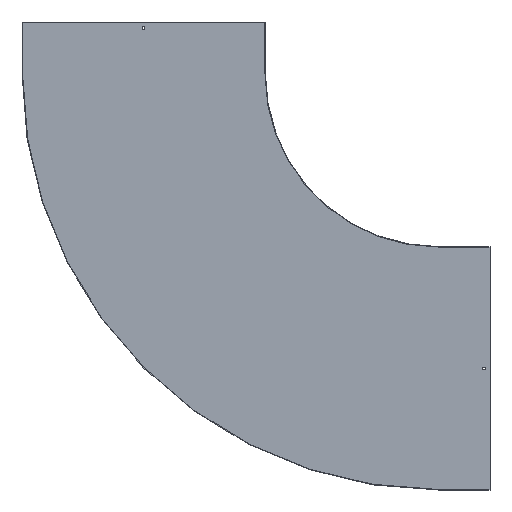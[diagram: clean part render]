
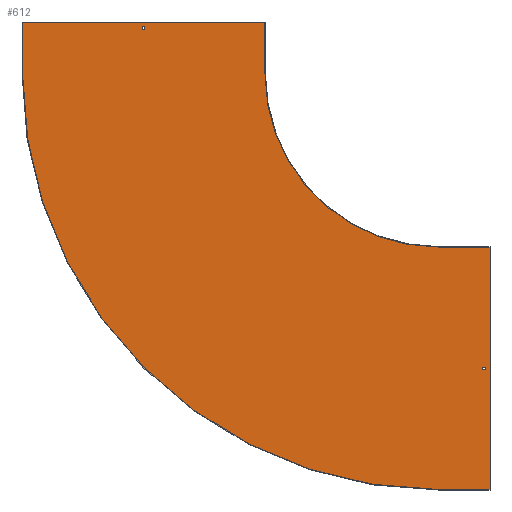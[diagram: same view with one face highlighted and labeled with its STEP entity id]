
A CAD part, front view. The second image highlights one B-rep face of the part: STEP entity #612.
In plain terms, the highlighted planar face has unit normal (0, -1, 0).
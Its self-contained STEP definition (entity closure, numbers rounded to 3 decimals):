
#2 = CARTESIAN_POINT ( 'NONE',  ( 0., -1.5, 138. ) ) ;
#5 = VECTOR ( 'NONE', #306, 1000. ) ;
#14 = CARTESIAN_POINT ( 'NONE',  ( 138., -1.5, -846.75 ) ) ;
#19 = ORIENTED_EDGE ( 'NONE', *, *, #496, .F. ) ;
#20 = CARTESIAN_POINT ( 'NONE',  ( 0., -1.5, -853.25 ) ) ;
#28 = CARTESIAN_POINT ( 'NONE',  ( -500., -1.5, 0. ) ) ;
#29 = CARTESIAN_POINT ( 'NONE',  ( 0., -1.5, 0. ) ) ;
#31 = EDGE_LOOP ( 'NONE', ( #349, #755, #540, #808 ) ) ;
#35 = DIRECTION ( 'NONE',  ( 0., 0., 1. ) ) ;
#53 = VECTOR ( 'NONE', #675, 1000. ) ;
#62 = CARTESIAN_POINT ( 'NONE',  ( 150., -1.5, -498.5 ) ) ;
#64 = VERTEX_POINT ( 'NONE', #737 ) ;
#65 = ORIENTED_EDGE ( 'NONE', *, *, #446, .F. ) ;
#75 = VERTEX_POINT ( 'NONE', #14 ) ;
#76 = DIRECTION ( 'NONE',  ( 0., 0., 1. ) ) ;
#78 = ORIENTED_EDGE ( 'NONE', *, *, #313, .F. ) ;
#79 = DIRECTION ( 'NONE',  ( 0., 1., 0. ) ) ;
#89 = FACE_OUTER_BOUND ( 'NONE', #614, .T. ) ;
#106 = EDGE_CURVE ( 'NONE', #200, #75, #479, .T. ) ;
#110 = CARTESIAN_POINT ( 'NONE',  ( -1201.5, -1.5, 150. ) ) ;
#113 = LINE ( 'NONE', #569, #194 ) ;
#117 = VERTEX_POINT ( 'NONE', #814 ) ;
#121 = VERTEX_POINT ( 'NONE', #28 ) ;
#138 = VECTOR ( 'NONE', #603, 1000. ) ;
#145 = FACE_BOUND ( 'NONE', #31, .T. ) ;
#171 = CARTESIAN_POINT ( 'NONE',  ( 0., -1.5, -500. ) ) ;
#172 = VECTOR ( 'NONE', #839, 1000. ) ;
#194 = VECTOR ( 'NONE', #441, 1000. ) ;
#200 = VERTEX_POINT ( 'NONE', #718 ) ;
#203 = DIRECTION ( 'NONE',  ( 0., -1., 0. ) ) ;
#210 = CARTESIAN_POINT ( 'NONE',  ( -853.25, -1.5, 129. ) ) ;
#211 = EDGE_CURVE ( 'NONE', #618, #792, #244, .T. ) ;
#220 = ORIENTED_EDGE ( 'NONE', *, *, #425, .F. ) ;
#244 = LINE ( 'NONE', #507, #447 ) ;
#247 = EDGE_CURVE ( 'NONE', #117, #754, #514, .T. ) ;
#252 = DIRECTION ( 'NONE',  ( 0., 0., 1. ) ) ;
#255 = CARTESIAN_POINT ( 'NONE',  ( 129., -1.5, 0. ) ) ;
#282 = CARTESIAN_POINT ( 'NONE',  ( 129., -1.5, -846.75 ) ) ;
#283 = PLANE ( 'NONE',  #634 ) ;
#284 = CARTESIAN_POINT ( 'NONE',  ( -500., -1.5, 150. ) ) ;
#286 = ORIENTED_EDGE ( 'NONE', *, *, #509, .F. ) ;
#291 = VERTEX_POINT ( 'NONE', #753 ) ;
#293 = VERTEX_POINT ( 'NONE', #429 ) ;
#295 = DIRECTION ( 'NONE',  ( 0., 0., -1. ) ) ;
#303 = AXIS2_PLACEMENT_3D ( 'NONE', #422, #203, #691 ) ;
#306 = DIRECTION ( 'NONE',  ( 0., 0., -1. ) ) ;
#313 = EDGE_CURVE ( 'NONE', #830, #200, #644, .T. ) ;
#324 = LINE ( 'NONE', #596, #395 ) ;
#335 = DIRECTION ( 'NONE',  ( -1., 0., 0. ) ) ;
#342 = VECTOR ( 'NONE', #842, 1000. ) ;
#348 = FACE_BOUND ( 'NONE', #694, .T. ) ;
#349 = ORIENTED_EDGE ( 'NONE', *, *, #549, .T. ) ;
#351 = EDGE_CURVE ( 'NONE', #754, #618, #559, .T. ) ;
#353 = DIRECTION ( 'NONE',  ( -1., 0., 0. ) ) ;
#361 = CARTESIAN_POINT ( 'NONE',  ( 150., -1.5, -1200. ) ) ;
#373 = DIRECTION ( 'NONE',  ( 0., 0., -1. ) ) ;
#374 = VERTEX_POINT ( 'NONE', #284 ) ;
#377 = CARTESIAN_POINT ( 'NONE',  ( -1200., -1.5, 0. ) ) ;
#385 = LINE ( 'NONE', #110, #53 ) ;
#391 = LINE ( 'NONE', #62, #138 ) ;
#395 = VECTOR ( 'NONE', #672, 1000. ) ;
#413 = CIRCLE ( 'NONE', #611, 1200. ) ;
#416 = CARTESIAN_POINT ( 'NONE',  ( 0., -1.5, 129. ) ) ;
#422 = CARTESIAN_POINT ( 'NONE',  ( 0., -1.5, 0. ) ) ;
#425 = EDGE_CURVE ( 'NONE', #121, #454, #476, .T. ) ;
#429 = CARTESIAN_POINT ( 'NONE',  ( -1200., -1.5, 0. ) ) ;
#431 = VECTOR ( 'NONE', #608, 1000. ) ;
#441 = DIRECTION ( 'NONE',  ( -1., 0., 0. ) ) ;
#446 = EDGE_CURVE ( 'NONE', #293, #291, #590, .T. ) ;
#447 = VECTOR ( 'NONE', #35, 1000. ) ;
#448 = EDGE_CURVE ( 'NONE', #688, #830, #523, .T. ) ;
#454 = VERTEX_POINT ( 'NONE', #647 ) ;
#457 = EDGE_CURVE ( 'NONE', #75, #688, #113, .T. ) ;
#475 = ORIENTED_EDGE ( 'NONE', *, *, #513, .F. ) ;
#476 = CIRCLE ( 'NONE', #303, 500. ) ;
#479 = LINE ( 'NONE', #738, #789 ) ;
#485 = EDGE_CURVE ( 'NONE', #374, #121, #324, .T. ) ;
#496 = EDGE_CURVE ( 'NONE', #731, #64, #668, .T. ) ;
#507 = CARTESIAN_POINT ( 'NONE',  ( -853.25, -1.5, 0. ) ) ;
#509 = EDGE_CURVE ( 'NONE', #847, #731, #391, .T. ) ;
#513 = EDGE_CURVE ( 'NONE', #291, #374, #385, .T. ) ;
#514 = LINE ( 'NONE', #779, #656 ) ;
#523 = LINE ( 'NONE', #255, #5 ) ;
#540 = ORIENTED_EDGE ( 'NONE', *, *, #351, .T. ) ;
#548 = DIRECTION ( 'NONE',  ( 0., 0., -1. ) ) ;
#549 = EDGE_CURVE ( 'NONE', #792, #117, #856, .T. ) ;
#559 = LINE ( 'NONE', #416, #633 ) ;
#569 = CARTESIAN_POINT ( 'NONE',  ( 0., -1.5, -846.75 ) ) ;
#584 = ORIENTED_EDGE ( 'NONE', *, *, #619, .F. ) ;
#590 = LINE ( 'NONE', #377, #820 ) ;
#596 = CARTESIAN_POINT ( 'NONE',  ( -500., -1.5, 150. ) ) ;
#602 = ORIENTED_EDGE ( 'NONE', *, *, #485, .F. ) ;
#603 = DIRECTION ( 'NONE',  ( 0., 0., -1. ) ) ;
#604 = ORIENTED_EDGE ( 'NONE', *, *, #106, .F. ) ;
#608 = DIRECTION ( 'NONE',  ( 1., 0., 0. ) ) ;
#611 = AXIS2_PLACEMENT_3D ( 'NONE', #676, #79, #548 ) ;
#612 = ADVANCED_FACE ( 'NONE', ( #348, #89, #145 ), #283, .T. ) ;
#614 = EDGE_LOOP ( 'NONE', ( #475, #65, #637, #19, #286, #584, #220, #602 ) ) ;
#618 = VERTEX_POINT ( 'NONE', #210 ) ;
#619 = EDGE_CURVE ( 'NONE', #454, #847, #749, .T. ) ;
#621 = CARTESIAN_POINT ( 'NONE',  ( 129., -1.5, -853.25 ) ) ;
#633 = VECTOR ( 'NONE', #353, 1000. ) ;
#634 = AXIS2_PLACEMENT_3D ( 'NONE', #29, #641, #295 ) ;
#637 = ORIENTED_EDGE ( 'NONE', *, *, #826, .F. ) ;
#641 = DIRECTION ( 'NONE',  ( 0., -1., 0. ) ) ;
#644 = LINE ( 'NONE', #20, #342 ) ;
#647 = CARTESIAN_POINT ( 'NONE',  ( 0., -1.5, -500. ) ) ;
#656 = VECTOR ( 'NONE', #373, 1000. ) ;
#668 = LINE ( 'NONE', #793, #765 ) ;
#672 = DIRECTION ( 'NONE',  ( 0., 0., -1. ) ) ;
#675 = DIRECTION ( 'NONE',  ( 1., 0., 0. ) ) ;
#676 = CARTESIAN_POINT ( 'NONE',  ( 0., -1.5, 0. ) ) ;
#683 = CARTESIAN_POINT ( 'NONE',  ( -853.25, -1.5, 138. ) ) ;
#688 = VERTEX_POINT ( 'NONE', #282 ) ;
#691 = DIRECTION ( 'NONE',  ( 0., 0., -1. ) ) ;
#693 = CARTESIAN_POINT ( 'NONE',  ( -846.75, -1.5, 129. ) ) ;
#694 = EDGE_LOOP ( 'NONE', ( #859, #604, #78, #724 ) ) ;
#710 = CARTESIAN_POINT ( 'NONE',  ( 150., -1.5, -500. ) ) ;
#718 = CARTESIAN_POINT ( 'NONE',  ( 138., -1.5, -853.25 ) ) ;
#724 = ORIENTED_EDGE ( 'NONE', *, *, #448, .F. ) ;
#731 = VERTEX_POINT ( 'NONE', #361 ) ;
#737 = CARTESIAN_POINT ( 'NONE',  ( 0., -1.5, -1200. ) ) ;
#738 = CARTESIAN_POINT ( 'NONE',  ( 138., -1.5, 0. ) ) ;
#749 = LINE ( 'NONE', #171, #172 ) ;
#753 = CARTESIAN_POINT ( 'NONE',  ( -1200., -1.5, 150. ) ) ;
#754 = VERTEX_POINT ( 'NONE', #693 ) ;
#755 = ORIENTED_EDGE ( 'NONE', *, *, #247, .T. ) ;
#765 = VECTOR ( 'NONE', #335, 1000. ) ;
#779 = CARTESIAN_POINT ( 'NONE',  ( -846.75, -1.5, 0. ) ) ;
#789 = VECTOR ( 'NONE', #76, 1000. ) ;
#792 = VERTEX_POINT ( 'NONE', #683 ) ;
#793 = CARTESIAN_POINT ( 'NONE',  ( 150., -1.5, -1200. ) ) ;
#808 = ORIENTED_EDGE ( 'NONE', *, *, #211, .T. ) ;
#814 = CARTESIAN_POINT ( 'NONE',  ( -846.75, -1.5, 138. ) ) ;
#820 = VECTOR ( 'NONE', #252, 1000. ) ;
#826 = EDGE_CURVE ( 'NONE', #64, #293, #413, .T. ) ;
#830 = VERTEX_POINT ( 'NONE', #621 ) ;
#839 = DIRECTION ( 'NONE',  ( 1., 0., 0. ) ) ;
#842 = DIRECTION ( 'NONE',  ( 1., 0., 0. ) ) ;
#847 = VERTEX_POINT ( 'NONE', #710 ) ;
#856 = LINE ( 'NONE', #2, #431 ) ;
#859 = ORIENTED_EDGE ( 'NONE', *, *, #457, .F. ) ;
